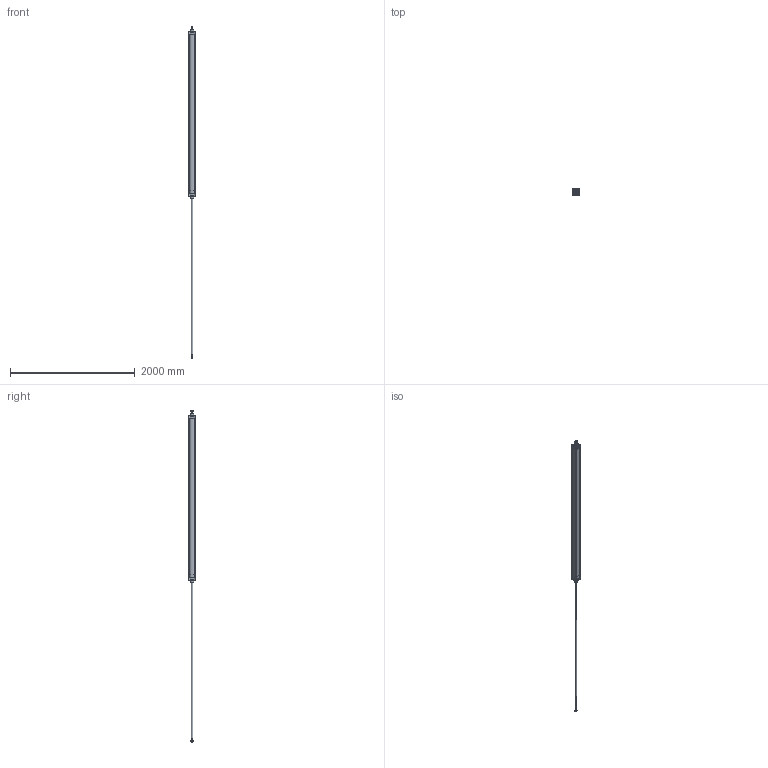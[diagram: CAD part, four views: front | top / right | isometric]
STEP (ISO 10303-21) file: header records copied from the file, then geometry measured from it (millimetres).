
FILE_DESCRIPTION(/* description */ ('Unknown'),/* implementation_level */ '2;1');
FILE_NAME(/* name */ 'HBF 100_2500',/* time_stamp */ '2025-01-13T14:42:44+01:00',/* author */ ('Unknown'),/* organization */ ('HAFNER Pneumatika Kft'),/* preprocessor_version */ 'ST-DEVELOPER v16.7',/* originating_system */ 'Solid Edge',/* authorisation */ 'Unknown');
FILE_SCHEMA (('AUTOMOTIVE_DESIGN {1 0 10303 214 3 1 1}'));
Length unit declared in the file: millimetre
Products named in the file (6): HBF 100_2500; Kit; Profilrohr; Kolbenstange_1; Mutter; Kolbenstange_2
Assembly tree (7 placements, depth 2):
  HBF 100_2500
    Kit  x2
    Profilrohr
    Kolbenstange_1
    Mutter  x2
    Kolbenstange_2
Bounding box: 110 x 110 x 5320 mm (x, y, z)
Volume: 7823434.5 mm3; surface area: 3284652.4 mm2
Topology: 7 solids, 23 shells, 1381 faces, 3383 edges, 2088 vertices
Faces by surface type: cylinder 475, plane 426, cone 168, torus 112, sphere 108, bspline 92
Full cylindrical faces by diameter (mm): 8.376 x16, 10 x8, 10.3 x8, 12 x2, 16 x8, 16.3 x8, 17 x2, 17.5 x2, 18.376 x2, 18.62 x2, 18.631 x2, 20 x2, 24.5 x2, 25 x6, 25.6 x2, 25.8 x2, 25.962 x2, 30 x2, 35 x4, 52 x2, 55 x2, 100 x3
Entity records: 29890 total; most frequent: CARTESIAN_POINT 7254, ORIENTED_EDGE 3826, DIRECTION 3675, EDGE_CURVE 1913, AXIS2_PLACEMENT_3D 1481, VERTEX_POINT 1233, FACE_BOUND 908, EDGE_LOOP 904
